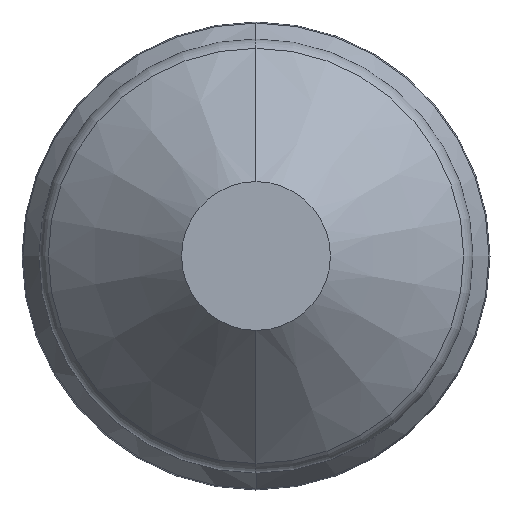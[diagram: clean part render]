
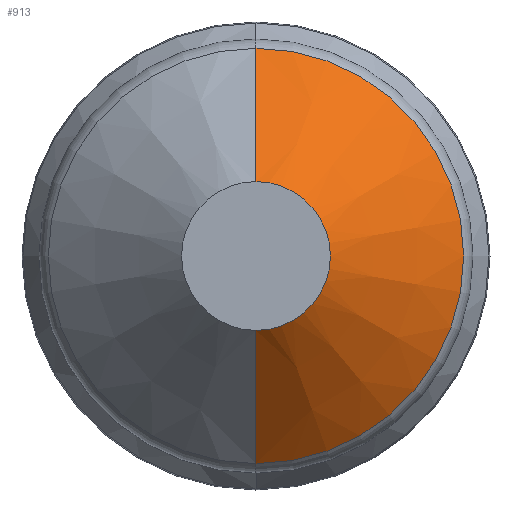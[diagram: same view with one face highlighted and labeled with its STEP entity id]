
A CAD part, front view. The second image highlights one B-rep face of the part: STEP entity #913.
In plain terms, the highlighted conical face has half-angle 45 degrees and reference radius 10.2 mm.
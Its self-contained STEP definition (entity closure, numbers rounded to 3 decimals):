
#3 = AXIS2_PLACEMENT_3D ( 'NONE', #209, #220, #1048 ) ;
#18 = DIRECTION ( 'NONE',  ( 0., 0., 1. ) ) ;
#19 = CIRCLE ( 'NONE', #655, 3.5 ) ;
#76 = ORIENTED_EDGE ( 'NONE', *, *, #683, .T. ) ;
#136 = CARTESIAN_POINT ( 'NONE',  ( 0., 6.261, -9.761 ) ) ;
#148 = ORIENTED_EDGE ( 'NONE', *, *, #1002, .T. ) ;
#154 = CARTESIAN_POINT ( 'NONE',  ( 0., 6.7, -10.2 ) ) ;
#172 = LINE ( 'NONE', #154, #554 ) ;
#181 = EDGE_CURVE ( 'NONE', #519, #705, #190, .T. ) ;
#190 = LINE ( 'NONE', #735, #585 ) ;
#209 = CARTESIAN_POINT ( 'NONE',  ( 0., 6.261, 0. ) ) ;
#220 = DIRECTION ( 'NONE',  ( 0., -1., 0. ) ) ;
#288 = DIRECTION ( 'NONE',  ( 0., 0.707, 0.707 ) ) ;
#294 = CARTESIAN_POINT ( 'NONE',  ( 0., 6.7, 0. ) ) ;
#319 = AXIS2_PLACEMENT_3D ( 'NONE', #294, #929, #750 ) ;
#348 = VERTEX_POINT ( 'NONE', #942 ) ;
#371 = EDGE_CURVE ( 'NONE', #519, #348, #19, .T. ) ;
#390 = CIRCLE ( 'NONE', #3, 9.761 ) ;
#392 = CONICAL_SURFACE ( 'NONE', #319, 10.2, 0.785 ) ;
#429 = ORIENTED_EDGE ( 'NONE', *, *, #371, .T. ) ;
#488 = CARTESIAN_POINT ( 'NONE',  ( 0., 0., 0. ) ) ;
#519 = VERTEX_POINT ( 'NONE', #1152 ) ;
#531 = VERTEX_POINT ( 'NONE', #136 ) ;
#554 = VECTOR ( 'NONE', #694, 1000. ) ;
#575 = DIRECTION ( 'NONE',  ( 0., 1., 0. ) ) ;
#585 = VECTOR ( 'NONE', #288, 1000. ) ;
#655 = AXIS2_PLACEMENT_3D ( 'NONE', #488, #575, #18 ) ;
#683 = EDGE_CURVE ( 'NONE', #348, #531, #172, .T. ) ;
#694 = DIRECTION ( 'NONE',  ( 0., 0.707, -0.707 ) ) ;
#705 = VERTEX_POINT ( 'NONE', #710 ) ;
#710 = CARTESIAN_POINT ( 'NONE',  ( 0., 6.261, 9.761 ) ) ;
#735 = CARTESIAN_POINT ( 'NONE',  ( 0., 6.7, 10.2 ) ) ;
#750 = DIRECTION ( 'NONE',  ( 0., 0., 1. ) ) ;
#913 = ADVANCED_FACE ( 'NONE', ( #1170 ), #392, .T. ) ;
#929 = DIRECTION ( 'NONE',  ( 0., 1., 0. ) ) ;
#942 = CARTESIAN_POINT ( 'NONE',  ( 0., 0., -3.5 ) ) ;
#1002 = EDGE_CURVE ( 'NONE', #531, #705, #390, .T. ) ;
#1021 = EDGE_LOOP ( 'NONE', ( #429, #76, #148, #1067 ) ) ;
#1048 = DIRECTION ( 'NONE',  ( 0., 0., -1. ) ) ;
#1067 = ORIENTED_EDGE ( 'NONE', *, *, #181, .F. ) ;
#1152 = CARTESIAN_POINT ( 'NONE',  ( 0., 0., 3.5 ) ) ;
#1170 = FACE_OUTER_BOUND ( 'NONE', #1021, .T. ) ;
